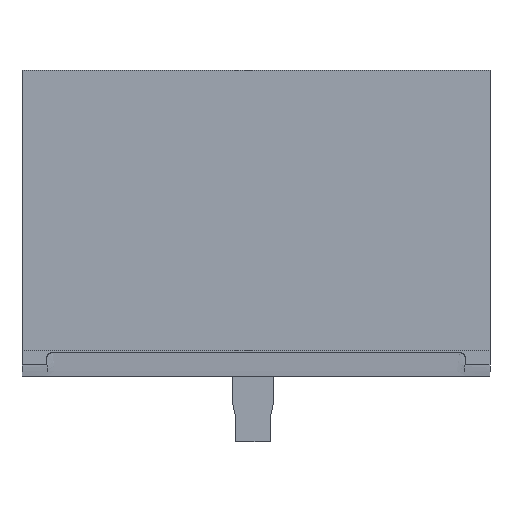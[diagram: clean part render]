
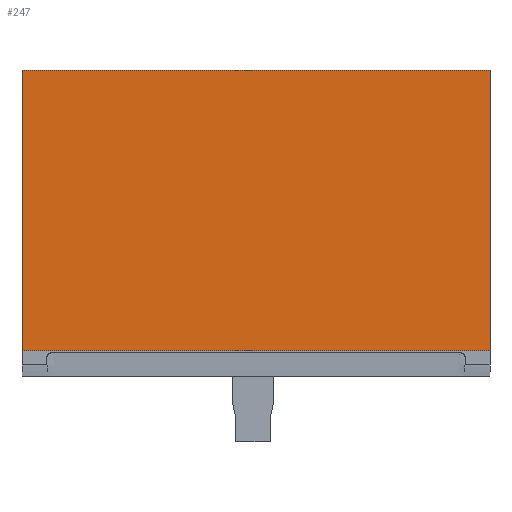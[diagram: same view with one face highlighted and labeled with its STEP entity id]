
A CAD part, top view. The second image highlights one B-rep face of the part: STEP entity #247.
In plain terms, the highlighted planar face has unit normal (0, 0, 1).
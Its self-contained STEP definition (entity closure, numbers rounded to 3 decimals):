
#115 = LINE ( 'NONE', #347, #747 ) ;
#137 = AXIS2_PLACEMENT_3D ( 'NONE', #1327, #412, #1557 ) ;
#162 = EDGE_CURVE ( 'NONE', #673, #401, #1280, .T. ) ;
#210 = CARTESIAN_POINT ( 'NONE',  ( 85.2, 55.7, 1.26 ) ) ;
#233 = CARTESIAN_POINT ( 'NONE',  ( 85.2, -46.51, 1.26 ) ) ;
#247 = ADVANCED_FACE ( 'NONE', ( #433 ), #950, .F. ) ;
#347 = CARTESIAN_POINT ( 'NONE',  ( -85.2, 55.7, 1.26 ) ) ;
#355 = DIRECTION ( 'NONE',  ( -1., 0., 0. ) ) ;
#357 = LINE ( 'NONE', #1088, #1007 ) ;
#358 = VECTOR ( 'NONE', #842, 1000. ) ;
#384 = CARTESIAN_POINT ( 'NONE',  ( -85.2, 55.7, 1.26 ) ) ;
#401 = VERTEX_POINT ( 'NONE', #210 ) ;
#412 = DIRECTION ( 'NONE',  ( 0., 0., -1. ) ) ;
#433 = FACE_OUTER_BOUND ( 'NONE', #444, .T. ) ;
#444 = EDGE_LOOP ( 'NONE', ( #661, #1541, #1511, #587 ) ) ;
#491 = EDGE_CURVE ( 'NONE', #1560, #673, #357, .T. ) ;
#559 = EDGE_CURVE ( 'NONE', #713, #1560, #1085, .T. ) ;
#587 = ORIENTED_EDGE ( 'NONE', *, *, #491, .T. ) ;
#625 = DIRECTION ( 'NONE',  ( 0., 1., 0. ) ) ;
#661 = ORIENTED_EDGE ( 'NONE', *, *, #162, .T. ) ;
#673 = VERTEX_POINT ( 'NONE', #1254 ) ;
#713 = VERTEX_POINT ( 'NONE', #384 ) ;
#747 = VECTOR ( 'NONE', #355, 1000. ) ;
#842 = DIRECTION ( 'NONE',  ( 0., -1., 0. ) ) ;
#950 = PLANE ( 'NONE',  #137 ) ;
#1007 = VECTOR ( 'NONE', #1573, 1000. ) ;
#1013 = CARTESIAN_POINT ( 'NONE',  ( -85.2, -46.51, 1.26 ) ) ;
#1085 = LINE ( 'NONE', #1201, #358 ) ;
#1088 = CARTESIAN_POINT ( 'NONE',  ( -85.2, -46.51, 1.26 ) ) ;
#1201 = CARTESIAN_POINT ( 'NONE',  ( -85.2, -46.51, 1.26 ) ) ;
#1254 = CARTESIAN_POINT ( 'NONE',  ( 85.2, -46.51, 1.26 ) ) ;
#1280 = LINE ( 'NONE', #233, #1310 ) ;
#1310 = VECTOR ( 'NONE', #625, 1000. ) ;
#1327 = CARTESIAN_POINT ( 'NONE',  ( 0., 0., 1.26 ) ) ;
#1332 = EDGE_CURVE ( 'NONE', #401, #713, #115, .T. ) ;
#1511 = ORIENTED_EDGE ( 'NONE', *, *, #559, .T. ) ;
#1541 = ORIENTED_EDGE ( 'NONE', *, *, #1332, .T. ) ;
#1557 = DIRECTION ( 'NONE',  ( -1., 0., 0. ) ) ;
#1560 = VERTEX_POINT ( 'NONE', #1013 ) ;
#1573 = DIRECTION ( 'NONE',  ( 1., 0., 0. ) ) ;
